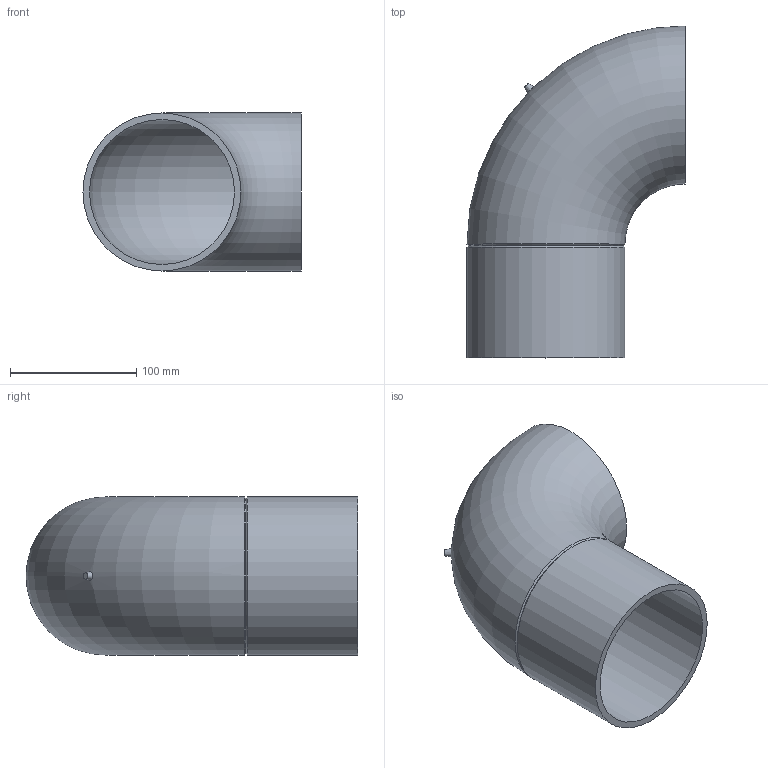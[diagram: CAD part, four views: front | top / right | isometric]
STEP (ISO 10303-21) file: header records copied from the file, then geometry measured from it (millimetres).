
FILE_DESCRIPTION(/* description */ (''),/* implementation_level */ '2;1');
FILE_NAME(/* name */ 'Z:\Geberit\Export\NewStep\368055.stp',/* time_stamp */ '2014-04-02T07:59:44+02:00',/* author */ ('bruh'),/* organization */ (''),/* preprocessor_version */ 'ST-DEVELOPER v15.2',/* originating_system */ 'Autodesk Inventor 2014',/* authorisation */ '');
FILE_SCHEMA (('AUTOMOTIVE_DESIGN { 1 0 10303 214 3 1 1 }'));
Length unit declared in the file: millimetre
Products named in the file (1): 368055
Bounding box: 172.5 x 262.5 x 125 mm (x, y, z)
Volume: 509089.5 mm3; surface area: 202239.2 mm2
Topology: 1 solids, 1 shells, 10 faces, 20 edges, 12 vertices
Faces by surface type: cone 3, plane 3, torus 2, cylinder 2
Full cylindrical faces by diameter (mm): 114.7 x1, 125 x1
Entity records: 281 total; most frequent: CARTESIAN_POINT 76, DIRECTION 40, EDGE_LOOP 20, ORIENTED_EDGE 20, AXIS2_PLACEMENT_3D 20, FACE_BOUND 12, STYLED_ITEM 11, VERTEX_POINT 10
